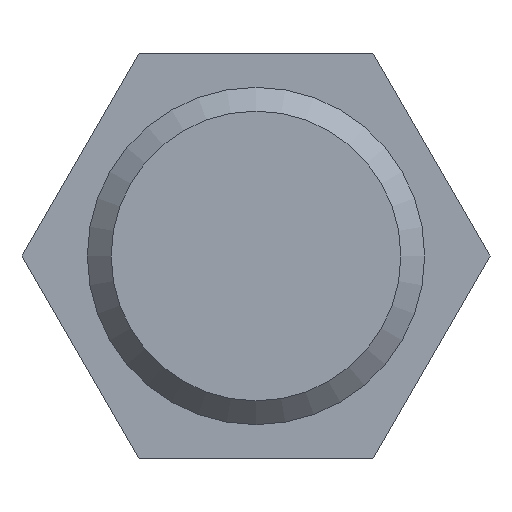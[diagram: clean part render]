
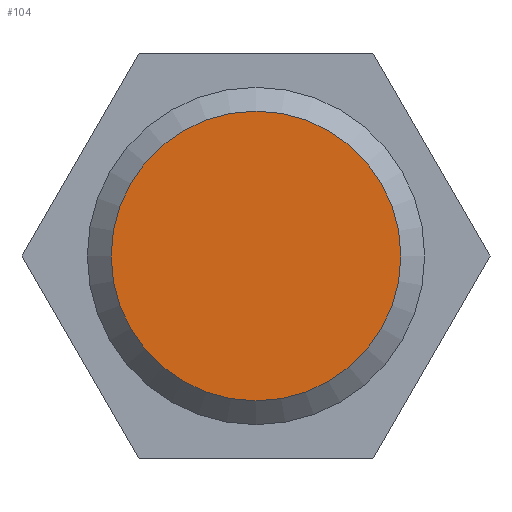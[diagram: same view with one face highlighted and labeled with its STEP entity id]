
A CAD part, left-side view. The second image highlights one B-rep face of the part: STEP entity #104.
In plain terms, the highlighted planar face has unit normal (-1, 0, 0).
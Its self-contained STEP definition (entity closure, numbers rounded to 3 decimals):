
#73=CARTESIAN_POINT('',(0.,6.075,0.));
#74=VERTEX_POINT('',#73);
#75=CARTESIAN_POINT('',(0.,0.0,0.0));
#76=DIRECTION('',(1.0,0.0,0.0));
#77=DIRECTION('',(0.0,-1.0,0.0));
#78=AXIS2_PLACEMENT_3D('',#75,#76,#77);
#79=CIRCLE('',#78,6.075);
#80=EDGE_CURVE('',#74,#74,#79,.T.);
#96=CARTESIAN_POINT('',(0.,3.538,0.0));
#97=DIRECTION('',(-1.0,0.0,0.0));
#98=DIRECTION('',(0.0,0.0,1.0));
#99=AXIS2_PLACEMENT_3D('',#96,#97,#98);
#100=PLANE('',#99);
#101=ORIENTED_EDGE('',*,*,#80,.F.);
#102=EDGE_LOOP('',(#101));
#103=FACE_OUTER_BOUND('',#102,.T.);
#104=ADVANCED_FACE('',(#103),#100,.T.);
